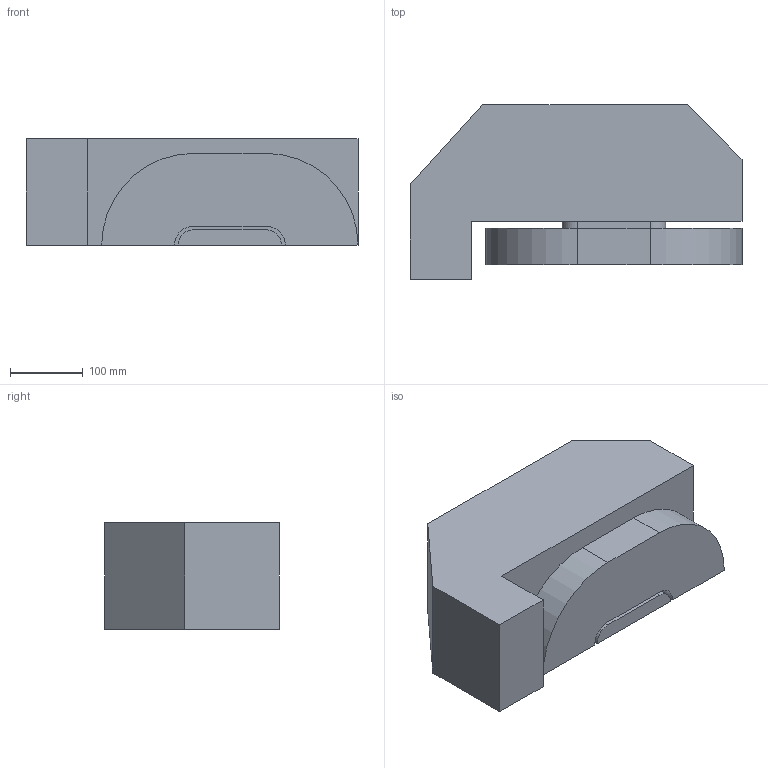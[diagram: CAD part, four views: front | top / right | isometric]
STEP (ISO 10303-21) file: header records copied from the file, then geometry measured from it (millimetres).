
FILE_DESCRIPTION(('STEP AP214'),'1');
FILE_NAME('Superbend_BC_model4_step.step','2021-06-24T14:01:47',(' '),(' '),'Spatial InterOp 3D',' ',' ');
FILE_SCHEMA(('AUTOMOTIVE_DESIGN { 1 0 10303 214 1 1 1 1 }'));
Length unit declared in the file: millimetre
Products named in the file (1): Pole
Bounding box: 456 x 240 x 146 mm (x, y, z)
Volume: 12281023.5 mm3; surface area: 466289.3 mm2
Topology: 3 solids, 3 shells, 26 faces, 60 edges, 40 vertices
Faces by surface type: plane 20, cylinder 6
Entity records: 759 total; most frequent: DIRECTION 130, CARTESIAN_POINT 129, ORIENTED_EDGE 120, EDGE_CURVE 60, LINE 48, VECTOR 48, AXIS2_PLACEMENT_3D 41, VERTEX_POINT 40
